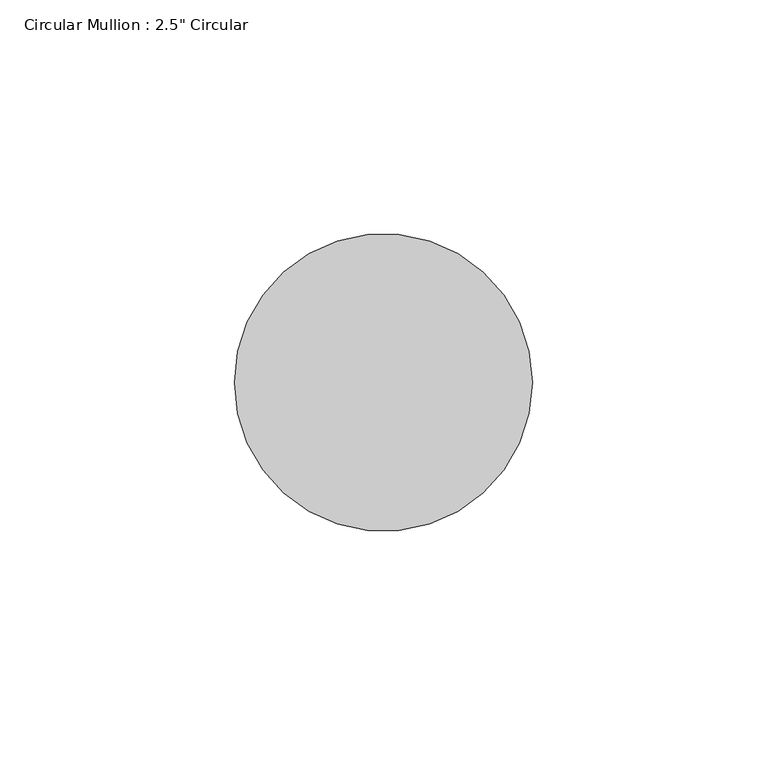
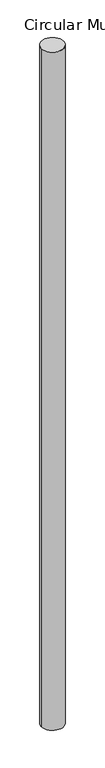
"""IFC4 building model written with IfcOpenShell, lengths in millimetres: member geometry."""

import ifcopenshell
import ifcopenshell.guid

model = None  # the IFC model being written
_history = None  # IfcOwnerHistory: only IFC2X3 demands one
_inside = {}  # id of a spatial element -> (the spatial element, [elements in it])
_under = {}  # id of a project, library or spatial element -> (it, [spatial elements below it])
_declared = {}  # id of a project -> (the project, [libraries it declares])
_typed = {}  # id of a type object -> (the type object, [elements of that type])
_made_of = {}  # id of a material, layer set ... -> (it, [elements and type objects made of it])


def new_model(schema):
    """Start an empty IFC model of exactly this schema.

    Asked for "IFC4X3", IfcOpenShell would pick the latest addendum, in which some entities
    have other attributes; the version numbers below select the first issue.
    IFC2X3 requires an IfcOwnerHistory on every rooted entity: one is made here for all.
    """
    global model, _history
    if schema == "IFC4X3":
        model = ifcopenshell.file(schema_version=(4, 3, 0, 0))
    else:
        model = ifcopenshell.file(schema=schema)
    _inside.clear()
    _under.clear()
    _declared.clear()
    _typed.clear()
    _made_of.clear()
    _history = None
    if model.schema == "IFC2X3":
        org = make("IfcOrganization", Name="unknown")
        user = make(
            "IfcPersonAndOrganization",
            ThePerson=make("IfcPerson", FamilyName="unknown"),
            TheOrganization=org,
        )
        app = make(
            "IfcApplication",
            ApplicationDeveloper=org,
            Version="unknown",
            ApplicationFullName="unknown",
            ApplicationIdentifier="unknown",
        )
        _history = make(
            "IfcOwnerHistory",
            OwningUser=user,
            OwningApplication=app,
            ChangeAction="ADDED",
            CreationDate=0,
        )
    return model


def make(cls, **values):
    """One entity of the class cls with the attributes given. An attribute that is None is left unset."""
    return model.create_entity(
        cls, **{name: value for name, value in values.items() if value is not None}
    )


def rooted(cls, **values):
    """An entity with a GlobalId (a new one), such as an element, a storey or a relation."""
    return make(cls, GlobalId=ifcopenshell.guid.new(), OwnerHistory=_history, **values)


def si_unit(unit_type, name, prefix=None):
    """IfcSIUnit, for example si_unit("LENGTHUNIT", "METRE", prefix="MILLI")."""
    return make("IfcSIUnit", UnitType=unit_type, Prefix=prefix, Name=name)


def assignment(units):
    """IfcUnitAssignment: the units of a project."""
    return None if units is None else make("IfcUnitAssignment", Units=units)


def point(xyz):
    """IfcCartesianPoint."""
    return None if xyz is None else make("IfcCartesianPoint", Coordinates=xyz)


def direction(xyz):
    """IfcDirection."""
    return None if xyz is None else make("IfcDirection", DirectionRatios=xyz)


def frame(location, z_axis=None, x_axis=None):
    """IfcAxis2Placement3D, a coordinate frame: its origin and axes. An axis left out is left unset."""
    return make(
        "IfcAxis2Placement3D",
        Location=point(location),
        Axis=direction(z_axis),
        RefDirection=direction(x_axis),
    )


def frame_2d(location, x_axis=None):
    """IfcAxis2Placement2D, a coordinate frame in the plane: its origin and x axis."""
    return make(
        "IfcAxis2Placement2D", Location=point(location), RefDirection=direction(x_axis)
    )


def origin():
    """The frame at (0, 0, 0) with its axes left unset."""
    return frame((0.0, 0.0, 0.0))


def origin_2d():
    """The frame at (0, 0) in the plane with its x axis left unset."""
    return frame_2d((0.0, 0.0))


def place(relative_to, where):
    """IfcLocalPlacement: puts the frame where relative to a parent placement (None: the world)."""
    return make(
        "IfcLocalPlacement", PlacementRelTo=relative_to, RelativePlacement=where
    )


def context(
    kind, dimensions, precision=None, world=None, true_north=None, identifier=None
):
    """IfcGeometricRepresentationContext, for example the 3D "Model" context."""
    return make(
        "IfcGeometricRepresentationContext",
        ContextIdentifier=identifier,
        ContextType=kind,
        CoordinateSpaceDimension=dimensions,
        Precision=precision,
        WorldCoordinateSystem=world,
        TrueNorth=true_north,
    )


def project(units=None, contexts=None):
    """IfcProject with its units and contexts."""
    return rooted(
        "IfcProject",
        Name="project",
        RepresentationContexts=contexts,
        UnitsInContext=assignment(units),
    )


def spatial(cls, under=None, at=None, **own):
    """A site, building, storey or space (cls), placed at a placement, below another one or the project."""
    s = rooted(cls, ObjectPlacement=at, **own)
    if under is not None:
        _under.setdefault(under.id(), (under, []))[1].append(s)
    return s


def circle_curve(where, radius):
    """IfcCircle in the frame where."""
    return make("IfcCircle", Position=where, Radius=radius)


def trimmed(basis, trim1, trim2, sense, master):
    """IfcTrimmedCurve: the piece of a basis curve between two trims."""
    return make(
        "IfcTrimmedCurve",
        BasisCurve=basis,
        Trim1=trim1,
        Trim2=trim2,
        SenseAgreement=sense,
        MasterRepresentation=master,
    )


def segment(curve, same_sense, transition):
    """IfcCompositeCurveSegment."""
    return make(
        "IfcCompositeCurveSegment",
        Transition=transition,
        SameSense=same_sense,
        ParentCurve=curve,
    )


def composite_curve(segments, self_intersect=None):
    """IfcCompositeCurve: segments joined end to end."""
    return make("IfcCompositeCurve", Segments=segments, SelfIntersect=self_intersect)


def outline(outer, holes=None, kind="AREA"):
    """IfcArbitraryClosedProfileDef: a profile drawn as a closed curve; with holes, ...WithVoids."""
    if holes is None:
        return make("IfcArbitraryClosedProfileDef", ProfileType=kind, OuterCurve=outer)
    return make(
        "IfcArbitraryProfileDefWithVoids",
        ProfileType=kind,
        OuterCurve=outer,
        InnerCurves=holes,
    )


def extrude(swept, where, along, depth):
    """IfcExtrudedAreaSolid: the profile swept, set in the frame where, extruded along a direction by depth."""
    return make(
        "IfcExtrudedAreaSolid",
        SweptArea=swept,
        Position=where,
        ExtrudedDirection=direction(along),
        Depth=depth,
    )


def shape(context_of_items, identifier, shape_type, items):
    """IfcShapeRepresentation: the items that make up one representation, for example the "Body"."""
    return make(
        "IfcShapeRepresentation",
        ContextOfItems=context_of_items,
        RepresentationIdentifier=identifier,
        RepresentationType=shape_type,
        Items=items,
    )


def source(mapping_origin, context_of_items, identifier, shape_type, items):
    """IfcRepresentationMap: a shape defined once, which mapped items show again and again."""
    return make(
        "IfcRepresentationMap",
        MappingOrigin=mapping_origin,
        MappedRepresentation=shape(context_of_items, identifier, shape_type, items),
    )


def transform(
    local_origin,
    x_axis=None,
    y_axis=None,
    z_axis=None,
    scale=None,
    scale2=None,
    scale3=None,
    uniform=True,
):
    """IfcCartesianTransformationOperator3D, or its non-uniform kind. x_axis, y_axis, z_axis: its Axis1, 2, 3."""
    if uniform:
        return make(
            "IfcCartesianTransformationOperator3D",
            Axis1=direction(x_axis),
            Axis2=direction(y_axis),
            LocalOrigin=point(local_origin),
            Scale=scale,
            Axis3=direction(z_axis),
        )
    return make(
        "IfcCartesianTransformationOperator3DnonUniform",
        Axis1=direction(x_axis),
        Axis2=direction(y_axis),
        LocalOrigin=point(local_origin),
        Scale=scale,
        Axis3=direction(z_axis),
        Scale2=scale2,
        Scale3=scale3,
    )


def mapped(mapping_source, mapping_target):
    """IfcMappedItem: shows the shape of a source again, moved by a transform."""
    return make(
        "IfcMappedItem", MappingSource=mapping_source, MappingTarget=mapping_target
    )


def made_of(thing, what):
    """Note that an element or type object is made of a material, layer set ...; save() writes the relation."""
    if what is not None:
        _made_of.setdefault(what.id(), (what, []))[1].append(thing)
    return thing


def element(
    cls,
    number,
    at=None,
    inside=None,
    cuts=None,
    type_object=None,
    material=None,
    context=None,
    identifier="Body",
    shape_type=None,
    held_by="IfcProductDefinitionShape",
    body=None,
    shapes=None,
    **own,
):
    """One element of the class cls, such as IfcWall. Its Tag is "e" and its number.

    at: its placement. inside: the storey or other place that contains it. cuts: it is an
    opening in that element (IfcRelVoidsElement). A single representation is given by context,
    identifier, shape_type and body (its items); several are given by shapes. held_by: the class
    of the entity that holds the representations. save() writes the other relations.
    """
    e = rooted(cls, Tag="e%d" % number, ObjectPlacement=at, **own)
    if body is not None:
        shapes = [shape(context, identifier, shape_type, body)]
    if shapes is not None:
        e.Representation = make(held_by, Representations=shapes)
    if inside is not None:
        _inside.setdefault(inside.id(), (inside, []))[1].append(e)
    if cuts is not None:
        rooted(
            "IfcRelVoidsElement", RelatingBuildingElement=cuts, RelatedOpeningElement=e
        )
    if type_object is not None:
        _typed.setdefault(type_object.id(), (type_object, []))[1].append(e)
    return made_of(e, material)


def aggregate(whole, parts):
    """IfcRelAggregates: a whole, such as a stair, and the parts it consists of."""
    return rooted("IfcRelAggregates", RelatingObject=whole, RelatedObjects=parts)


def save(model, path):
    """Write the relations noted so far, then the file.

    IfcRelAggregates (storeys below a building ...), IfcRelContainedInSpatialStructure (elements
    in a storey), IfcRelDefinesByType, IfcRelAssociatesMaterial and IfcRelDeclares: one each for
    every whole, place, type object, material and project.
    """
    for whole, parts in _under.values():
        aggregate(whole, parts)
    for where, things in _inside.values():
        rooted(
            "IfcRelContainedInSpatialStructure",
            RelatedElements=things,
            RelatingStructure=where,
        )
    for kind, things in _typed.values():
        rooted("IfcRelDefinesByType", RelatedObjects=things, RelatingType=kind)
    for what, things in _made_of.values():
        rooted("IfcRelAssociatesMaterial", RelatedObjects=things, RelatingMaterial=what)
    for by, libraries in _declared.values():
        rooted("IfcRelDeclares", RelatingContext=by, RelatedDefinitions=libraries)
    model.write(path)


def member_df40f607(model_context):
    return source(origin(), model_context, "Body", "SweptSolid", [
        extrude(outline(composite_curve([segment(trimmed(circle_curve(origin_2d(), 31.75), [point((31.75, 0.0))], [point((-31.75, 0.0))], False, "CARTESIAN"), True, "CONTINUOUS"), segment(trimmed(circle_curve(origin_2d(), 31.75), [point((-31.75, 0.0))], [point((31.75, 0.0))], False, "CARTESIAN"), True, "CONTINUOUS")], self_intersect=False)), frame((0.0, 0.0, -2043.2870125), z_axis=(0.0, 0.0, 1.0), x_axis=(1.0, 0.0, 0.0)), (0.0, 0.0, 1.0), 2043.2870125),
    ])


if __name__ == "__main__":
    model = new_model("IFC4")
    model_context = context("Model", 3, world=origin())
    ifc_project = project(units=[si_unit("LENGTHUNIT", "METRE", prefix="MILLI")], contexts=[model_context])
    site = spatial("IfcSite", under=ifc_project)
    building = spatial("IfcBuilding", under=site)
    placement = place(None, origin())
    member_shape = member_df40f607(model_context)
    element("IfcMember", 1, ObjectType="Circular Mullion : 2.5\" Circular", at=placement, inside=building, context=model_context, shape_type="MappedRepresentation", body=[
        mapped(member_shape, transform((0.0, 0.0, 0.0), x_axis=(1.0, 0.0, 0.0), y_axis=(0.0, 1.0, 0.0), z_axis=(0.0, 0.0, 1.0))),
    ])
    save(model, "model.ifc")
